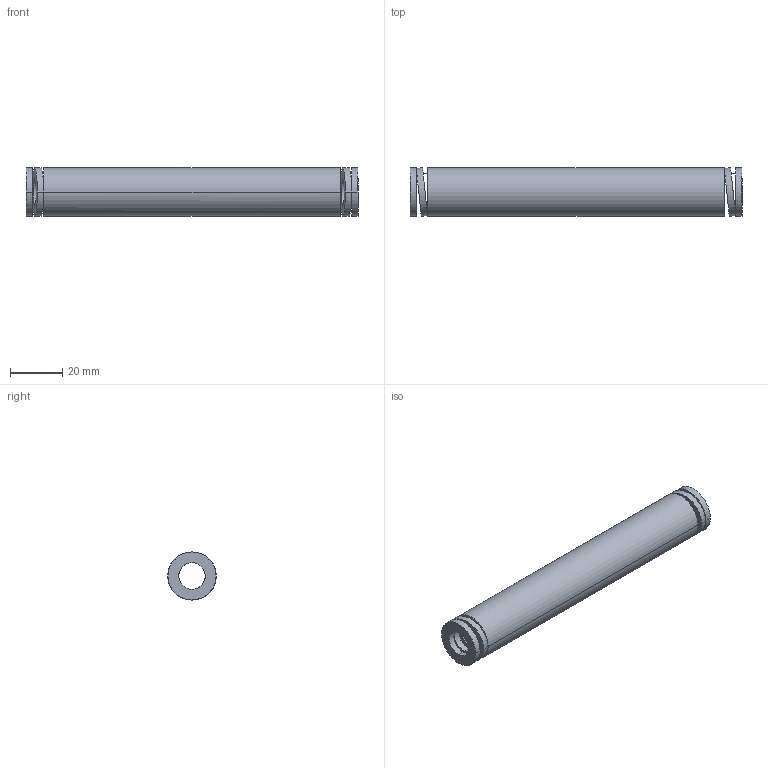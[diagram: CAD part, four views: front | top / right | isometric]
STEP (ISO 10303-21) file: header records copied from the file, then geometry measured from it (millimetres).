
FILE_DESCRIPTION(('CATIA V5 STEP Exchange'),'2;1');
FILE_NAME('C:\Users\Utente\Desktop\IO LAVORO\3D X SITO CF\X SITO\3D files 392B\392-B20-127.stp','2021-08-12T13:45:32+00:00',('none'),('none'),'CATIA Version 5 Release 20 GA (IN-10)','CATIA V5 STEP AP203','none');
FILE_SCHEMA(('CONFIG_CONTROL_DESIGN'));
Length unit declared in the file: millimetre
Products named in the file (1): 392-B20-127
Bounding box: 127 x 18.55 x 18.4 mm (x, y, z)
Volume: 22666.7 mm3; surface area: 12901.1 mm2
Topology: 1 solids, 1 shells, 38 faces, 92 edges, 64 vertices
Faces by surface type: cylinder 28, plane 10
Entity records: 1602 total; most frequent: CARTESIAN_POINT 721, ORIENTED_EDGE 184, DIRECTION 125, EDGE_CURVE 92, VERTEX_POINT 64, AXIS2_PLACEMENT_3D 60, EDGE_LOOP 56, B_SPLINE_CURVE_WITH_KNOTS 43
